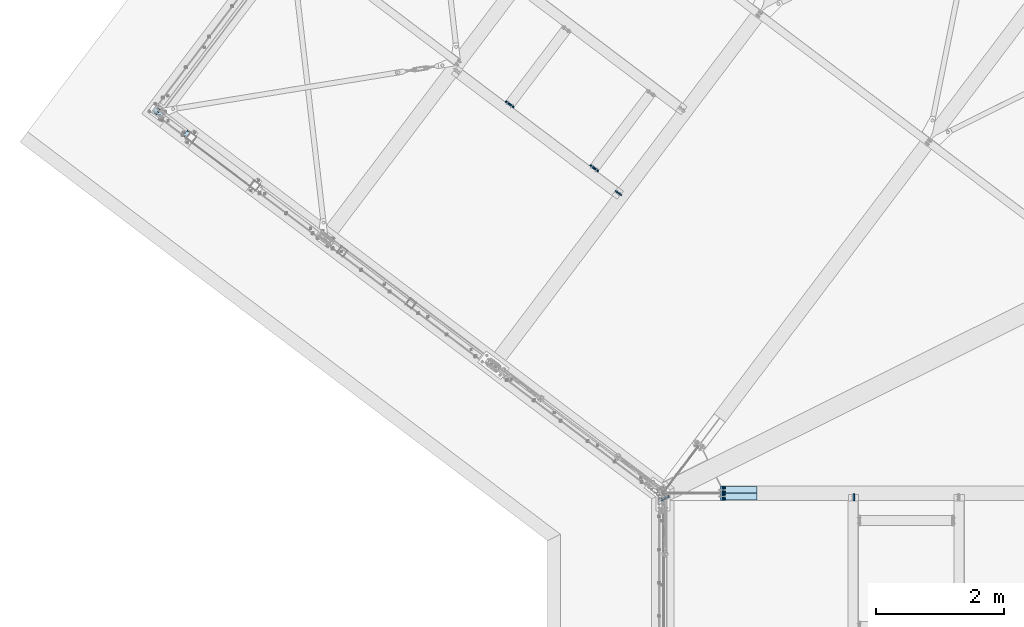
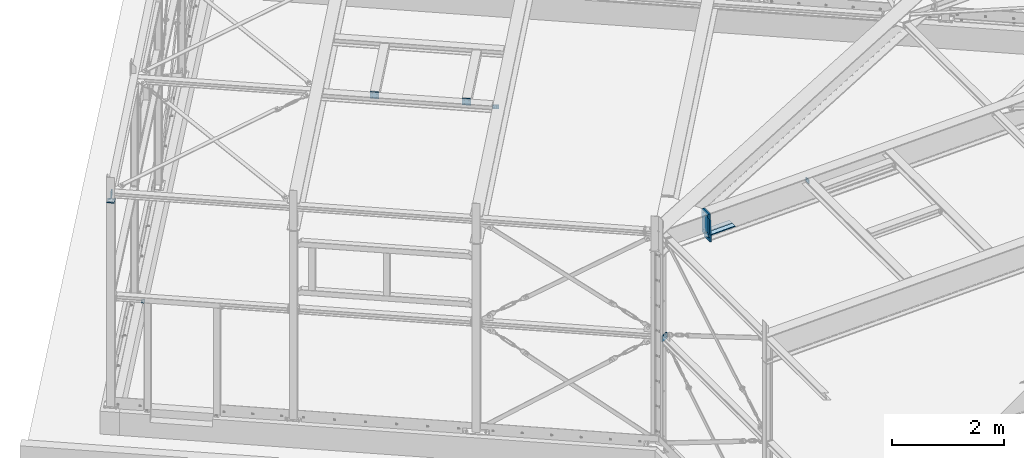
# One storey, part 52 of 476: 15 plates, 66 openings.
"""IFC2X3 building model written with IfcOpenShell, lengths in millimetres."""

from ifc_helpers import new_model, entity, si_unit, converted_unit, frame, frame_2d, origin, origin_with_axes, origin_2d_with_axis, place, context, project, spatial, polyline, circle, outline, extrude, material, layer, layer_set, element, save


model = new_model("IFC2X3")

# Units and contexts
model_context = context("Model", 3, precision=1e-09, world=origin_with_axes())
ifc_project = project(units=[si_unit("LENGTHUNIT", "METRE", prefix="MILLI"), si_unit("AREAUNIT", "SQUARE_METRE"), si_unit("VOLUMEUNIT", "CUBIC_METRE"), converted_unit("PLANEANGLEUNIT", "DEGREE", entity("IfcPlaneAngleMeasure", 0.01745329), si_unit("PLANEANGLEUNIT", "RADIAN"), dimensions=[0, 0, 0, 0, 0, 0, 0])], contexts=[model_context])

# Site, building, storey
site_placement = place(None, origin_with_axes())
site = spatial("IfcSite", under=ifc_project, at=site_placement, Name="mKR Teilneubau & Sanierung BA1 - Ostfildern", CompositionType="ELEMENT")
building_placement = place(site_placement, origin_with_axes())
building = spatial("IfcBuilding", under=site, at=building_placement, Name="Struktur 1", CompositionType="ELEMENT")
storey_placement = place(building_placement, origin_with_axes())
storey = spatial("IfcBuildingStorey", under=building, at=storey_placement, Name="Default Storey", CompositionType="ELEMENT", Elevation=0.0)

# Plate, openings
ifc_material = material(Name="S235JR")
ifc_layer_1 = layer(ifc_material, 30.0)
ifc_layer_set_1 = layer_set([ifc_layer_1], Name="S235JR")
plate_1_placement = place(None, frame((9108.159747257, -5948.67387897, 4981.430828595), z_axis=(-0.999548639, 0.0, -0.030041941), x_axis=(-0.030041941, 0.0, 0.999548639)))
plate_1 = element("IfcPlate", 1, at=plate_1_placement, inside=storey, material=ifc_layer_set_1, Name="Endplate#1", ObjectType="Endplate#1", context=model_context, shape_type="SweptSolid", body=[
    extrude(outline(polyline([(-309.0, -110.0), (309.0, -110.0), (309.0, 110.0), (-309.0, 110.0), (-309.0, -110.0)])), origin_with_axes(), (0.0, 0.0, -1.0), 30.0),
])
opening_1_placement = place(plate_1_placement, frame((266.0, 61.001, 0.5), z_axis=(0.0, 0.0, 1.0), x_axis=(1.0, 0.0, 0.0)))
element("IfcOpeningElement", 2, at=opening_1_placement, cuts=plate_1, ObjectType="Opening", context=model_context, shape_type="SweptSolid", body=[
    extrude(circle(Radius=11.001, at=frame_2d((0.0, -11.001), x_axis=(1.0, 0.0))), origin(), (0.0, 0.0, -1.0), 31.0),
])
opening_2_placement = place(plate_1_placement, frame((-114.0, 61.001, 0.5), z_axis=(0.0, 0.0, 1.0), x_axis=(1.0, 0.0, 0.0)))
element("IfcOpeningElement", 3, at=opening_2_placement, cuts=plate_1, ObjectType="Opening", context=model_context, shape_type="SweptSolid", body=[
    extrude(circle(Radius=11.001, at=frame_2d((0.0, -11.001), x_axis=(1.0, 0.0))), origin(), (0.0, 0.0, -1.0), 31.0),
])
opening_3_placement = place(plate_1_placement, frame((266.0, -38.999, 0.5), z_axis=(0.0, 0.0, 1.0), x_axis=(1.0, 0.0, 0.0)))
element("IfcOpeningElement", 4, at=opening_3_placement, cuts=plate_1, ObjectType="Opening", context=model_context, shape_type="SweptSolid", body=[
    extrude(circle(Radius=11.001, at=frame_2d((0.0, -11.001), x_axis=(1.0, 0.0))), origin(), (0.0, 0.0, -1.0), 31.0),
])
opening_4_placement = place(plate_1_placement, frame((-114.0, -38.999, 0.5), z_axis=(0.0, 0.0, 1.0), x_axis=(1.0, 0.0, 0.0)))
element("IfcOpeningElement", 5, at=opening_4_placement, cuts=plate_1, ObjectType="Opening", context=model_context, shape_type="SweptSolid", body=[
    extrude(circle(Radius=11.001, at=frame_2d((0.0, -11.001), x_axis=(1.0, 0.0))), origin(), (0.0, 0.0, -1.0), 31.0),
])

plate_2_placement = place(None, frame((9076.520981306, -5948.67387897, 5035.504745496), z_axis=(-0.999548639, 0.0, -0.030041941), x_axis=(-0.030041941, 0.0, 0.999548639)))
plate_2 = element("IfcPlate", 6, at=plate_2_placement, inside=storey, material=ifc_layer_set_1, Name="Endplate#2", ObjectType="Endplate#2", context=model_context, shape_type="SweptSolid", body=[
    extrude(outline(polyline([(-254.0, -110.0), (254.0, -110.0), (254.0, 110.0), (-254.0, 110.0), (-254.0, -110.0)])), origin_with_axes(), (0.0, 0.0, -1.0), 30.0),
])
opening_5_placement = place(plate_2_placement, frame((211.0, -38.999, 0.5), z_axis=(0.0, 0.0, 1.0), x_axis=(1.0, 0.0, 0.0)))
element("IfcOpeningElement", 7, at=opening_5_placement, cuts=plate_2, ObjectType="Opening", context=model_context, shape_type="SweptSolid", body=[
    extrude(circle(Radius=11.001, at=frame_2d((0.0, -11.001), x_axis=(1.0, 0.0))), origin(), (0.0, 0.0, -1.0), 31.000000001),
])
opening_6_placement = place(plate_2_placement, frame((-169.0, -38.999, 0.500000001), z_axis=(0.0, 0.0, 1.0), x_axis=(1.0, 0.0, 0.0)))
element("IfcOpeningElement", 8, at=opening_6_placement, cuts=plate_2, ObjectType="Opening", context=model_context, shape_type="SweptSolid", body=[
    extrude(circle(Radius=11.001, at=frame_2d((0.0, -11.001), x_axis=(1.0, 0.0))), origin(), (0.0, 0.0, -1.0), 31.000000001),
])
opening_7_placement = place(plate_2_placement, frame((211.0, 61.001, 0.5), z_axis=(0.0, 0.0, 1.0), x_axis=(1.0, 0.0, 0.0)))
element("IfcOpeningElement", 9, at=opening_7_placement, cuts=plate_2, ObjectType="Opening", context=model_context, shape_type="SweptSolid", body=[
    extrude(circle(Radius=11.001, at=frame_2d((0.0, -11.001), x_axis=(1.0, 0.0))), origin(), (0.0, 0.0, -1.0), 31.000000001),
])
opening_8_placement = place(plate_2_placement, frame((-169.0, 61.001, 0.500000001), z_axis=(0.0, 0.0, 1.0), x_axis=(1.0, 0.0, 0.0)))
element("IfcOpeningElement", 10, at=opening_8_placement, cuts=plate_2, ObjectType="Opening", context=model_context, shape_type="SweptSolid", body=[
    extrude(circle(Radius=11.001, at=frame_2d((0.0, -11.001), x_axis=(1.0, 0.0))), origin(), (0.0, 0.0, -1.0), 31.000000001),
])

# Plates
ifc_layer_2 = layer(ifc_material, 20.0)
ifc_layer_set_2 = layer_set([ifc_layer_2], Name="S235JR")
plate_3_placement = place(None, frame((9393.185559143, -6004.673878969, 4818.419980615), z_axis=(0.030041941, 0.0, -0.999548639), x_axis=(0.0, 1.0, 0.0)))
element("IfcPlate", 11, at=plate_3_placement, inside=storey, material=ifc_layer_set_2, Name="-", ObjectType="-", context=model_context, shape_type="SweptSolid", body=[
    extrude(outline(polyline([(-50.0, -250.0), (50.0, -250.0), (50.0, 250.0), (-50.0, 250.0), (-50.0, -250.0)])), origin_with_axes(), (0.0, 0.0, -1.0), 20.0),
])
plate_4_placement = place(None, frame((9393.185559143, -5892.673878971, 4818.419980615), z_axis=(-0.030041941, 0.0, 0.999548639), x_axis=(0.0, -1.0, 0.0)))
element("IfcPlate", 12, at=plate_4_placement, inside=storey, material=ifc_layer_set_2, Name="-", ObjectType="-", context=model_context, shape_type="SweptSolid", body=[
    extrude(outline(polyline([(-50.0, -250.0), (50.0, -250.0), (50.0, 250.0), (-50.0, 250.0), (-50.0, -250.0)])), origin_with_axes(), (0.0, 0.0, 1.0), 20.0),
])

# Plate, openings
ifc_layer_3 = layer(ifc_material, 15.0)
ifc_layer_set_3 = layer_set([ifc_layer_3], Name="S235JR")
plate_5_placement = place(None, frame((11151.674703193, -5954.67387897, 5329.979239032), z_axis=(0.999549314, 0.0, 0.030019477), x_axis=(0.0, -1.0, 0.0)))
plate_5 = element("IfcPlate", 13, at=plate_5_placement, inside=storey, material=ifc_layer_set_3, Name="LugPlate#2", ObjectType="LugPlate#2", context=model_context, shape_type="SweptSolid", body=[
    extrude(outline(polyline([(0.0, 0.0), (115.0, 0.0), (115.0, 90.0), (0.0, 90.0), (0.0, 0.0)])), origin_with_axes(), (0.0, 0.0, 1.0), 15.0),
])
opening_9_placement = place(plate_5_placement, frame((0.0, 0.0, -0.1), z_axis=(0.0, 0.0, 1.0), x_axis=(-1.0, 0.0, 0.0)))
element("IfcOpeningElement", 14, at=opening_9_placement, cuts=plate_5, ObjectType="Opening", context=model_context, shape_type="SweptSolid", body=[
    extrude(outline(polyline([(0.001, -9.002346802), (0.001, 15.001067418), (-24.002414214, 15.001067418), (0.001, -9.002346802)])), origin(), (0.0, 0.0, 1.0), 15.2),
])
opening_10_placement = place(plate_5_placement, frame((40.0, 25.0, -0.5), z_axis=(0.0, 0.0, 1.0), x_axis=(1.0, 0.0, 0.0)))
element("IfcOpeningElement", 15, at=opening_10_placement, cuts=plate_5, ObjectType="Opening", context=model_context, shape_type="SweptSolid", body=[
    extrude(circle(Radius=7.001, at=frame_2d((50.0, 40.0), x_axis=(1.0, 0.0))), origin(), (0.0, 0.0, 1.0), 16.0),
])
opening_11_placement = place(plate_5_placement, frame((40.0, 25.0, -0.5), z_axis=(0.0, 0.0, 1.0), x_axis=(1.0, 0.0, 0.0)))
element("IfcOpeningElement", 16, at=opening_11_placement, cuts=plate_5, ObjectType="Opening", context=model_context, shape_type="SweptSolid", body=[
    extrude(circle(Radius=7.001, at=frame_2d((0.0, 40.0), x_axis=(1.0, 0.0))), origin(), (0.0, 0.0, 1.0), 16.0),
])
opening_12_placement = place(plate_5_placement, frame((40.0, 25.0, -0.5), z_axis=(0.0, 0.0, 1.0), x_axis=(1.0, 0.0, 0.0)))
element("IfcOpeningElement", 17, at=opening_12_placement, cuts=plate_5, ObjectType="Opening", context=model_context, shape_type="SweptSolid", body=[
    extrude(circle(Radius=7.001, at=frame_2d((50.0, 0.0), x_axis=(1.0, 0.0))), origin(), (0.0, 0.0, 1.0), 16.0),
])
opening_13_placement = place(plate_5_placement, frame((40.0, 25.0, -0.5), z_axis=(0.0, 0.0, 1.0), x_axis=(1.0, 0.0, 0.0)))
element("IfcOpeningElement", 18, at=opening_13_placement, cuts=plate_5, ObjectType="Opening", context=model_context, shape_type="SweptSolid", body=[
    extrude(circle(Radius=7.001, at=origin_2d_with_axis()), origin(), (0.0, 0.0, 1.0), 16.0),
])

plate_6_placement = place(None, frame((5775.564455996, 159.033581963, 5301.392654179), z_axis=(-0.602462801, -0.797581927, -0.030027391), x_axis=(0.018098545, 0.02396011, -0.999549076)))
plate_6 = element("IfcPlate", 19, at=plate_6_placement, inside=storey, material=ifc_layer_set_3, Name="Endplate#1", ObjectType="Endplate#1", context=model_context, shape_type="SweptSolid", body=[
    extrude(outline(polyline([(-70.0, -80.0), (70.0, -80.0), (70.0, 80.0), (-70.0, 80.0), (-70.0, -80.0)])), origin_with_axes(), (0.0, 0.0, 1.0), 15.0),
])
opening_14_placement = place(plate_6_placement, frame((-52.0, -18.0, 15.5), z_axis=(0.0, 0.0, -1.0), x_axis=(1.0, 0.0, 0.0)))
element("IfcOpeningElement", 20, at=opening_14_placement, cuts=plate_6, ObjectType="Opening", context=model_context, shape_type="SweptSolid", body=[
    extrude(circle(Radius=6.001, at=origin_2d_with_axis()), origin(), (0.0, 0.0, 1.0), 16.0),
])
opening_15_placement = place(plate_6_placement, frame((52.0, -18.0, 15.5), z_axis=(0.0, 0.0, -1.0), x_axis=(1.0, 0.0, 0.0)))
element("IfcOpeningElement", 21, at=opening_15_placement, cuts=plate_6, ObjectType="Opening", context=model_context, shape_type="SweptSolid", body=[
    extrude(circle(Radius=6.001, at=origin_2d_with_axis()), origin(), (0.0, 0.0, 1.0), 16.0),
])
opening_16_placement = place(plate_6_placement, frame((52.0, 18.0, 15.5), z_axis=(0.0, 0.0, -1.0), x_axis=(1.0, 0.0, 0.0)))
element("IfcOpeningElement", 22, at=opening_16_placement, cuts=plate_6, ObjectType="Opening", context=model_context, shape_type="SweptSolid", body=[
    extrude(circle(Radius=6.001, at=origin_2d_with_axis()), origin(), (0.0, 0.0, 1.0), 16.0),
])
opening_17_placement = place(plate_6_placement, frame((-52.0, 18.0, 15.5), z_axis=(0.0, 0.0, -1.0), x_axis=(1.0, 0.0, 0.0)))
element("IfcOpeningElement", 23, at=opening_17_placement, cuts=plate_6, ObjectType="Opening", context=model_context, shape_type="SweptSolid", body=[
    extrude(circle(Radius=6.001, at=origin_2d_with_axis()), origin(), (0.0, 0.0, 1.0), 16.0),
])
opening_18_placement = place(plate_6_placement, frame((35.0, -43.0, 15.5), z_axis=(0.0, 0.0, -1.0), x_axis=(0.0, -1.0, 0.0)))
element("IfcOpeningElement", 24, at=opening_18_placement, cuts=plate_6, ObjectType="Opening", context=model_context, shape_type="SweptSolid", body=[
    extrude(circle(Radius=7.001, at=frame_2d((0.0, 70.0), x_axis=(1.0, 0.0))), origin(), (0.0, 0.0, 1.0), 16.0),
])
opening_19_placement = place(plate_6_placement, frame((35.0, -43.0, 15.5), z_axis=(0.0, 0.0, -1.0), x_axis=(0.0, -1.0, 0.0)))
element("IfcOpeningElement", 25, at=opening_19_placement, cuts=plate_6, ObjectType="Opening", context=model_context, shape_type="SweptSolid", body=[
    extrude(circle(Radius=7.001, at=origin_2d_with_axis()), origin(), (0.0, 0.0, 1.0), 16.0),
])
opening_20_placement = place(plate_6_placement, frame((35.0, 43.0, 15.5), z_axis=(0.0, 0.0, -1.0), x_axis=(-1.0, 0.0, 0.0)))
element("IfcOpeningElement", 26, at=opening_20_placement, cuts=plate_6, ObjectType="Opening", context=model_context, shape_type="SweptSolid", body=[
    extrude(circle(Radius=7.001, at=frame_2d((70.0, 0.0), x_axis=(1.0, 0.0))), origin(), (0.0, 0.0, 1.0), 16.0),
])
opening_21_placement = place(plate_6_placement, frame((35.0, 43.0, 15.5), z_axis=(0.0, 0.0, -1.0), x_axis=(-1.0, 0.0, 0.0)))
element("IfcOpeningElement", 27, at=opening_21_placement, cuts=plate_6, ObjectType="Opening", context=model_context, shape_type="SweptSolid", body=[
    extrude(circle(Radius=7.001, at=origin_2d_with_axis()), origin(), (0.0, 0.0, 1.0), 16.0),
])

plate_7_placement = place(None, frame((5757.490571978, 135.106124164, 5300.491832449), z_axis=(0.602462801, 0.797581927, 0.030027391), x_axis=(-0.797941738, 0.602734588, 0.0)))
plate_7 = element("IfcPlate", 28, at=plate_7_placement, inside=storey, material=ifc_layer_set_3, Name="T-plate", ObjectType="T-plate", context=model_context, shape_type="SweptSolid", body=[
    extrude(outline(polyline([(-80.0, -70.0), (80.0, -70.0), (80.0, 70.0), (-80.0, 70.0), (-80.0, -70.0)])), origin_with_axes(), (0.0, 0.0, 1.0), 15.0),
])
opening_22_placement = place(plate_7_placement, frame((-43.0, -35.0, -0.5), z_axis=(0.0, 0.0, 1.0), x_axis=(0.0, 1.0, 0.0)))
element("IfcOpeningElement", 29, at=opening_22_placement, cuts=plate_7, ObjectType="Opening", context=model_context, shape_type="SweptSolid", body=[
    extrude(circle(Radius=7.001, at=frame_2d((70.0, 0.0), x_axis=(1.0, 0.0))), origin(), (0.0, 0.0, 1.0), 16.0),
])
opening_23_placement = place(plate_7_placement, frame((-43.0, -35.0, -0.5), z_axis=(0.0, 0.0, 1.0), x_axis=(0.0, 1.0, 0.0)))
element("IfcOpeningElement", 30, at=opening_23_placement, cuts=plate_7, ObjectType="Opening", context=model_context, shape_type="SweptSolid", body=[
    extrude(circle(Radius=7.001, at=origin_2d_with_axis()), origin(), (0.0, 0.0, 1.0), 16.0),
])
opening_24_placement = place(plate_7_placement, frame((43.0, -35.0, -0.5), z_axis=(0.0, 0.0, 1.0), x_axis=(1.0, 0.0, 0.0)))
element("IfcOpeningElement", 31, at=opening_24_placement, cuts=plate_7, ObjectType="Opening", context=model_context, shape_type="SweptSolid", body=[
    extrude(circle(Radius=7.001, at=frame_2d((0.0, 70.0), x_axis=(1.0, 0.0))), origin(), (0.0, 0.0, 1.0), 16.0),
])
opening_25_placement = place(plate_7_placement, frame((43.0, -35.0, -0.5), z_axis=(0.0, 0.0, 1.0), x_axis=(1.0, 0.0, 0.0)))
element("IfcOpeningElement", 32, at=opening_25_placement, cuts=plate_7, ObjectType="Opening", context=model_context, shape_type="SweptSolid", body=[
    extrude(circle(Radius=7.001, at=origin_2d_with_axis()), origin(), (0.0, 0.0, 1.0), 16.0),
])

plate_8_placement = place(None, frame((7512.376131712, -1285.115594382, 5250.201265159), z_axis=(0.602462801, 0.797581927, 0.030027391), x_axis=(-0.797941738, 0.602734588, 0.0)))
plate_8 = element("IfcPlate", 33, at=plate_8_placement, inside=storey, material=ifc_layer_set_3, Name="LugPlate#1", ObjectType="LugPlate#1", context=model_context, shape_type="SweptSolid", body=[
    extrude(outline(polyline([(0.0, 0.0), (114.999999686, 0.0), (114.999999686, 90.0), (0.0, 90.0), (0.0, 0.0)])), origin_with_axes(), (0.0, 0.0, 1.0), 15.0),
])
opening_26_placement = place(plate_8_placement, frame((0.0, 0.0, 15.1), z_axis=(0.0, 0.0, -1.0), x_axis=(-1.0, 0.0, 0.0)))
element("IfcOpeningElement", 34, at=opening_26_placement, cuts=plate_8, ObjectType="Opening", context=model_context, shape_type="SweptSolid", body=[
    extrude(outline(polyline([(0.001000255, 80.997629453), (0.001000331, 105.001043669), (-24.002413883, 105.001043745), (0.001000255, 80.997629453)])), origin(), (0.0, 0.0, 1.0), 15.2),
])
opening_27_placement = place(plate_8_placement, frame((39.999999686, 65.0, 15.5), z_axis=(0.0, 0.0, -1.0), x_axis=(1.0, 0.0, 0.0)))
element("IfcOpeningElement", 35, at=opening_27_placement, cuts=plate_8, ObjectType="Opening", context=model_context, shape_type="SweptSolid", body=[
    extrude(circle(Radius=7.001, at=frame_2d((50.0, 40.0), x_axis=(1.0, 0.0))), origin(), (0.0, 0.0, 1.0), 16.0),
])
opening_28_placement = place(plate_8_placement, frame((39.999999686, 65.0, 15.5), z_axis=(0.0, 0.0, -1.0), x_axis=(1.0, 0.0, 0.0)))
element("IfcOpeningElement", 36, at=opening_28_placement, cuts=plate_8, ObjectType="Opening", context=model_context, shape_type="SweptSolid", body=[
    extrude(circle(Radius=7.001, at=frame_2d((0.0, 40.0), x_axis=(1.0, 0.0))), origin(), (0.0, 0.0, 1.0), 16.0),
])
opening_29_placement = place(plate_8_placement, frame((39.999999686, 65.0, 15.5), z_axis=(0.0, 0.0, -1.0), x_axis=(1.0, 0.0, 0.0)))
element("IfcOpeningElement", 37, at=opening_29_placement, cuts=plate_8, ObjectType="Opening", context=model_context, shape_type="SweptSolid", body=[
    extrude(circle(Radius=7.001, at=frame_2d((50.0, 0.0), x_axis=(1.0, 0.0))), origin(), (0.0, 0.0, 1.0), 16.0),
])
opening_30_placement = place(plate_8_placement, frame((39.999999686, 65.0, 15.5), z_axis=(0.0, 0.0, -1.0), x_axis=(1.0, 0.0, 0.0)))
element("IfcOpeningElement", 38, at=opening_30_placement, cuts=plate_8, ObjectType="Opening", context=model_context, shape_type="SweptSolid", body=[
    extrude(circle(Radius=7.001, at=origin_2d_with_axis()), origin(), (0.0, 0.0, 1.0), 16.0),
])

plate_9_placement = place(None, frame((7100.147740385, -841.505833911, 5301.392648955), z_axis=(-0.602462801, -0.797581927, -0.030027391), x_axis=(0.018098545, 0.02396011, -0.999549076)))
plate_9 = element("IfcPlate", 39, at=plate_9_placement, inside=storey, material=ifc_layer_set_3, Name="Endplate#1", ObjectType="Endplate#1", context=model_context, shape_type="SweptSolid", body=[
    extrude(outline(polyline([(-70.0, -80.0), (70.0, -80.0), (70.0, 80.0), (-70.0, 80.0), (-70.0, -80.0)])), origin_with_axes(), (0.0, 0.0, 1.0), 15.0),
])
opening_31_placement = place(plate_9_placement, frame((-52.0, -18.0, 15.5), z_axis=(0.0, 0.0, -1.0), x_axis=(1.0, 0.0, 0.0)))
element("IfcOpeningElement", 40, at=opening_31_placement, cuts=plate_9, ObjectType="Opening", context=model_context, shape_type="SweptSolid", body=[
    extrude(circle(Radius=6.001, at=origin_2d_with_axis()), origin(), (0.0, 0.0, 1.0), 16.0),
])
opening_32_placement = place(plate_9_placement, frame((52.0, -18.0, 15.5), z_axis=(0.0, 0.0, -1.0), x_axis=(1.0, 0.0, 0.0)))
element("IfcOpeningElement", 41, at=opening_32_placement, cuts=plate_9, ObjectType="Opening", context=model_context, shape_type="SweptSolid", body=[
    extrude(circle(Radius=6.001, at=origin_2d_with_axis()), origin(), (0.0, 0.0, 1.0), 16.0),
])
opening_33_placement = place(plate_9_placement, frame((52.0, 18.0, 15.5), z_axis=(0.0, 0.0, -1.0), x_axis=(1.0, 0.0, 0.0)))
element("IfcOpeningElement", 42, at=opening_33_placement, cuts=plate_9, ObjectType="Opening", context=model_context, shape_type="SweptSolid", body=[
    extrude(circle(Radius=6.001, at=origin_2d_with_axis()), origin(), (0.0, 0.0, 1.0), 16.0),
])
opening_34_placement = place(plate_9_placement, frame((-52.0, 18.0, 15.5), z_axis=(0.0, 0.0, -1.0), x_axis=(1.0, 0.0, 0.0)))
element("IfcOpeningElement", 43, at=opening_34_placement, cuts=plate_9, ObjectType="Opening", context=model_context, shape_type="SweptSolid", body=[
    extrude(circle(Radius=6.001, at=origin_2d_with_axis()), origin(), (0.0, 0.0, 1.0), 16.0),
])
opening_35_placement = place(plate_9_placement, frame((35.0, -43.0, 15.5), z_axis=(0.0, 0.0, -1.0), x_axis=(0.0, -1.0, 0.0)))
element("IfcOpeningElement", 44, at=opening_35_placement, cuts=plate_9, ObjectType="Opening", context=model_context, shape_type="SweptSolid", body=[
    extrude(circle(Radius=7.001, at=frame_2d((0.0, 70.0), x_axis=(1.0, 0.0))), origin(), (0.0, 0.0, 1.0), 16.0),
])
opening_36_placement = place(plate_9_placement, frame((35.0, -43.0, 15.5), z_axis=(0.0, 0.0, -1.0), x_axis=(0.0, -1.0, 0.0)))
element("IfcOpeningElement", 45, at=opening_36_placement, cuts=plate_9, ObjectType="Opening", context=model_context, shape_type="SweptSolid", body=[
    extrude(circle(Radius=7.001, at=origin_2d_with_axis()), origin(), (0.0, 0.0, 1.0), 16.0),
])
opening_37_placement = place(plate_9_placement, frame((35.0, 43.0, 15.5), z_axis=(0.0, 0.0, -1.0), x_axis=(-1.0, 0.0, 0.0)))
element("IfcOpeningElement", 46, at=opening_37_placement, cuts=plate_9, ObjectType="Opening", context=model_context, shape_type="SweptSolid", body=[
    extrude(circle(Radius=7.001, at=frame_2d((70.0, 0.0), x_axis=(1.0, 0.0))), origin(), (0.0, 0.0, 1.0), 16.0),
])
opening_38_placement = place(plate_9_placement, frame((35.0, 43.0, 15.5), z_axis=(0.0, 0.0, -1.0), x_axis=(-1.0, 0.0, 0.0)))
element("IfcOpeningElement", 47, at=opening_38_placement, cuts=plate_9, ObjectType="Opening", context=model_context, shape_type="SweptSolid", body=[
    extrude(circle(Radius=7.001, at=origin_2d_with_axis()), origin(), (0.0, 0.0, 1.0), 16.0),
])

plate_10_placement = place(None, frame((7082.073856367, -865.43329171, 5300.491827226), z_axis=(0.602462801, 0.797581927, 0.030027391), x_axis=(-0.797941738, 0.602734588, 0.0)))
plate_10 = element("IfcPlate", 48, at=plate_10_placement, inside=storey, material=ifc_layer_set_3, Name="T-plate", ObjectType="T-plate", context=model_context, shape_type="SweptSolid", body=[
    extrude(outline(polyline([(-80.0, -70.0), (80.0, -70.0), (80.0, 70.0), (-80.0, 70.0), (-80.0, -70.0)])), origin_with_axes(), (0.0, 0.0, 1.0), 15.0),
])
opening_39_placement = place(plate_10_placement, frame((43.0, -35.0, -0.5), z_axis=(0.0, 0.0, 1.0), x_axis=(1.0, 0.0, 0.0)))
element("IfcOpeningElement", 49, at=opening_39_placement, cuts=plate_10, ObjectType="Opening", context=model_context, shape_type="SweptSolid", body=[
    extrude(circle(Radius=7.001, at=frame_2d((0.0, 70.0), x_axis=(1.0, 0.0))), origin(), (0.0, 0.0, 1.0), 16.0),
])
opening_40_placement = place(plate_10_placement, frame((43.0, -35.0, -0.5), z_axis=(0.0, 0.0, 1.0), x_axis=(1.0, 0.0, 0.0)))
element("IfcOpeningElement", 50, at=opening_40_placement, cuts=plate_10, ObjectType="Opening", context=model_context, shape_type="SweptSolid", body=[
    extrude(circle(Radius=7.001, at=origin_2d_with_axis()), origin(), (0.0, 0.0, 1.0), 16.0),
])
opening_41_placement = place(plate_10_placement, frame((-43.0, -35.0, -0.5), z_axis=(0.0, 0.0, 1.0), x_axis=(0.0, 1.0, 0.0)))
element("IfcOpeningElement", 51, at=opening_41_placement, cuts=plate_10, ObjectType="Opening", context=model_context, shape_type="SweptSolid", body=[
    extrude(circle(Radius=7.001, at=frame_2d((70.0, 0.0), x_axis=(1.0, 0.0))), origin(), (0.0, 0.0, 1.0), 16.0),
])
opening_42_placement = place(plate_10_placement, frame((-43.0, -35.0, -0.5), z_axis=(0.0, 0.0, 1.0), x_axis=(0.0, 1.0, 0.0)))
element("IfcOpeningElement", 52, at=opening_42_placement, cuts=plate_10, ObjectType="Opening", context=model_context, shape_type="SweptSolid", body=[
    extrude(circle(Radius=7.001, at=origin_2d_with_axis()), origin(), (0.0, 0.0, 1.0), 16.0),
])

plate_11_placement = place(None, frame((155.002755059, 25.153285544, 4982.267498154), z_axis=(-0.018107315, -0.023971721, 0.999548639), x_axis=(0.797941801, -0.602734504, 0.0)))
plate_11 = element("IfcPlate", 53, at=plate_11_placement, inside=storey, material=ifc_layer_set_2, Name="Endplate", ObjectType="Endplate", context=model_context, shape_type="SweptSolid", body=[
    extrude(outline(polyline([(0.0, 0.0), (140.0, 0.0), (140.0, 123.060058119), (0.0, 123.060058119), (0.0, 0.0)])), origin_with_axes(), (0.0, 0.0, 1.0), 20.0),
])
opening_43_placement = place(plate_11_placement, frame((84.75, 15.503838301, 20.5), z_axis=(0.0, 0.0, -1.0), x_axis=(0.0, 1.0, 0.0)))
element("IfcOpeningElement", 54, at=opening_43_placement, cuts=plate_11, ObjectType="Opening", context=model_context, shape_type="SweptSolid", body=[
    extrude(circle(Radius=6.001, at=origin_2d_with_axis()), origin(), (0.0, 0.0, 1.0), 21.0),
])
opening_44_placement = place(plate_11_placement, frame((84.75, 107.556219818, 20.5), z_axis=(0.0, 0.0, -1.0), x_axis=(0.0, 1.0, 0.0)))
element("IfcOpeningElement", 55, at=opening_44_placement, cuts=plate_11, ObjectType="Opening", context=model_context, shape_type="SweptSolid", body=[
    extrude(circle(Radius=6.001, at=origin_2d_with_axis()), origin(), (0.0, 0.0, 1.0), 21.0),
])
opening_45_placement = place(plate_11_placement, frame((55.25, 107.556219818, 20.5), z_axis=(0.0, 0.0, -1.0), x_axis=(0.0, 1.0, 0.0)))
element("IfcOpeningElement", 56, at=opening_45_placement, cuts=plate_11, ObjectType="Opening", context=model_context, shape_type="SweptSolid", body=[
    extrude(circle(Radius=6.001, at=origin_2d_with_axis()), origin(), (0.0, 0.0, 1.0), 21.0),
])
opening_46_placement = place(plate_11_placement, frame((55.25, 15.503838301, 20.5), z_axis=(0.0, 0.0, -1.0), x_axis=(0.0, 1.0, 0.0)))
element("IfcOpeningElement", 57, at=opening_46_placement, cuts=plate_11, ObjectType="Opening", context=model_context, shape_type="SweptSolid", body=[
    extrude(circle(Radius=6.001, at=origin_2d_with_axis()), origin(), (0.0, 0.0, 1.0), 21.0),
])
opening_47_placement = place(plate_11_placement, frame((100.499, 89.03, -0.5), z_axis=(0.0, 0.0, -1.0), x_axis=(-1.0, 0.0, 0.0)))
element("IfcOpeningElement", 58, at=opening_47_placement, cuts=plate_11, ObjectType="Opening", context=model_context, shape_type="SweptSolid", body=[
    extrude(circle(Radius=7.001, at=frame_2d((-7.001, 0.0), x_axis=(1.0, 0.0))), origin(), (0.0, 0.0, -1.0), 21.0),
])
opening_48_placement = place(plate_11_placement, frame((100.499, 34.03, -0.5), z_axis=(0.0, 0.0, -1.0), x_axis=(-1.0, 0.0, 0.0)))
element("IfcOpeningElement", 59, at=opening_48_placement, cuts=plate_11, ObjectType="Opening", context=model_context, shape_type="SweptSolid", body=[
    extrude(circle(Radius=7.001, at=frame_2d((-7.001, 0.0), x_axis=(1.0, 0.0))), origin(), (0.0, 0.0, -1.0), 21.0),
])
opening_49_placement = place(plate_11_placement, frame((25.499, 34.03, -0.5), z_axis=(0.0, 0.0, -1.0), x_axis=(-1.0, 0.0, 0.0)))
element("IfcOpeningElement", 60, at=opening_49_placement, cuts=plate_11, ObjectType="Opening", context=model_context, shape_type="SweptSolid", body=[
    extrude(circle(Radius=7.001, at=frame_2d((-7.001, 0.0), x_axis=(1.0, 0.0))), origin(), (0.0, 0.0, -1.0), 21.0),
])
opening_50_placement = place(plate_11_placement, frame((25.499, 89.03, -0.5), z_axis=(0.0, 0.0, -1.0), x_axis=(-1.0, 0.0, 0.0)))
element("IfcOpeningElement", 61, at=opening_50_placement, cuts=plate_11, ObjectType="Opening", context=model_context, shape_type="SweptSolid", body=[
    extrude(circle(Radius=7.001, at=frame_2d((-7.001, 0.0), x_axis=(1.0, 0.0))), origin(), (0.0, 0.0, -1.0), 21.0),
])

ifc_layer_4 = layer(ifc_material, 12.0)
ifc_layer_set_4 = layer_set([ifc_layer_4], Name="S235JR")
plate_12_placement = place(None, frame((276.549599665, 64.453023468, 5220.545097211), z_axis=(0.797941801, -0.602734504, 0.0), x_axis=(-0.602462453, -0.797581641, -0.030041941)))
plate_12 = element("IfcPlate", 62, at=plate_12_placement, inside=storey, material=ifc_layer_set_4, Name="Endplate", ObjectType="Endplate", context=model_context, shape_type="SweptSolid", body=[
    extrude(outline(polyline([(0.0, 0.0), (90.0, 0.0), (90.0, 124.0), (0.0, 124.0), (0.0, 0.0)])), origin_with_axes(), (0.0, 0.0, 1.0), 12.0),
])
opening_51_placement = place(plate_12_placement, frame((59.5, 99.0, -0.5), z_axis=(0.0, 0.0, 1.0), x_axis=(0.0, -1.0, 0.0)))
element("IfcOpeningElement", 63, at=opening_51_placement, cuts=plate_12, ObjectType="Opening", context=model_context, shape_type="SweptSolid", body=[
    extrude(circle(Radius=6.001, at=origin_2d_with_axis()), origin(), (0.0, 0.0, 1.0), 13.0),
])
opening_52_placement = place(plate_12_placement, frame((59.5, 25.0, -0.5), z_axis=(0.0, 0.0, 1.0), x_axis=(0.0, -1.0, 0.0)))
element("IfcOpeningElement", 64, at=opening_52_placement, cuts=plate_12, ObjectType="Opening", context=model_context, shape_type="SweptSolid", body=[
    extrude(circle(Radius=6.001, at=origin_2d_with_axis()), origin(), (0.0, 0.0, 1.0), 13.0),
])
opening_53_placement = place(plate_12_placement, frame((30.5, 25.0, -0.5), z_axis=(0.0, 0.0, 1.0), x_axis=(0.0, -1.0, 0.0)))
element("IfcOpeningElement", 65, at=opening_53_placement, cuts=plate_12, ObjectType="Opening", context=model_context, shape_type="SweptSolid", body=[
    extrude(circle(Radius=6.001, at=origin_2d_with_axis()), origin(), (0.0, 0.0, 1.0), 13.0),
])
opening_54_placement = place(plate_12_placement, frame((30.5, 99.0, -0.5), z_axis=(0.0, 0.0, 1.0), x_axis=(0.0, -1.0, 0.0)))
element("IfcOpeningElement", 66, at=opening_54_placement, cuts=plate_12, ObjectType="Opening", context=model_context, shape_type="SweptSolid", body=[
    extrude(circle(Radius=6.001, at=origin_2d_with_axis()), origin(), (0.0, 0.0, 1.0), 13.0),
])
opening_55_placement = place(plate_12_placement, frame((70.0, 62.0, -0.5), z_axis=(0.0, 0.0, 1.0), x_axis=(0.0, -1.0, 0.0)))
element("IfcOpeningElement", 67, at=opening_55_placement, cuts=plate_12, ObjectType="Opening", context=model_context, shape_type="SweptSolid", body=[
    extrude(circle(Radius=7.001, at=origin_2d_with_axis()), origin(), (0.0, 0.0, 1.0), 13.0),
])
opening_56_placement = place(plate_12_placement, frame((20.0, 62.0, -0.5), z_axis=(0.0, 0.0, 1.0), x_axis=(0.0, -1.0, 0.0)))
element("IfcOpeningElement", 68, at=opening_56_placement, cuts=plate_12, ObjectType="Opening", context=model_context, shape_type="SweptSolid", body=[
    extrude(circle(Radius=7.001, at=origin_2d_with_axis()), origin(), (0.0, 0.0, 1.0), 13.0),
])

plate_13_placement = place(None, frame((8191.831043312, -6047.329608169, 2912.000013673), z_axis=(-0.445738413, 0.895163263, 0.0), x_axis=(0.0, 0.0, -1.0)))
plate_13 = element("IfcPlate", 69, at=plate_13_placement, inside=storey, material=ifc_layer_set_3, Name="Endplate#1", ObjectType="Endplate#1", context=model_context, shape_type="SweptSolid", body=[
    extrude(outline(polyline([(-62.00000347, -82.501061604), (62.00000347, -82.501061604), (62.00000347, 82.501061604), (-62.00000347, 82.501061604), (-62.00000347, -82.501061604)])), origin_with_axes(), (0.0, 0.0, 1.0), 15.0),
])
opening_57_placement = place(plate_13_placement, frame((36.999996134, 44.086060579, 15.5), z_axis=(0.0, 0.0, -1.0), x_axis=(-1.0, 0.0, 0.0)))
element("IfcOpeningElement", 70, at=opening_57_placement, cuts=plate_13, ObjectType="Opening", context=model_context, shape_type="SweptSolid", body=[
    extrude(circle(Radius=6.001, at=origin_2d_with_axis()), origin(), (0.0, 0.0, 1.0), 16.0),
])
opening_58_placement = place(plate_13_placement, frame((-37.000003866, 44.086060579, 15.5), z_axis=(0.0, 0.0, -1.0), x_axis=(-1.0, 0.0, 0.0)))
element("IfcOpeningElement", 71, at=opening_58_placement, cuts=plate_13, ObjectType="Opening", context=model_context, shape_type="SweptSolid", body=[
    extrude(circle(Radius=6.001, at=origin_2d_with_axis()), origin(), (0.0, 0.0, 1.0), 16.0),
])
opening_59_placement = place(plate_13_placement, frame((-37.000003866, 14.500487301, 15.5), z_axis=(0.0, 0.0, -1.0), x_axis=(-1.0, 0.0, 0.0)))
element("IfcOpeningElement", 72, at=opening_59_placement, cuts=plate_13, ObjectType="Opening", context=model_context, shape_type="SweptSolid", body=[
    extrude(circle(Radius=6.001, at=origin_2d_with_axis()), origin(), (0.0, 0.0, 1.0), 16.0),
])
opening_60_placement = place(plate_13_placement, frame((36.999996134, 14.500487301, 15.5), z_axis=(0.0, 0.0, -1.0), x_axis=(-1.0, 0.0, 0.0)))
element("IfcOpeningElement", 73, at=opening_60_placement, cuts=plate_13, ObjectType="Opening", context=model_context, shape_type="SweptSolid", body=[
    extrude(circle(Radius=6.001, at=origin_2d_with_axis()), origin(), (0.0, 0.0, 1.0), 16.0),
])
opening_61_placement = place(plate_13_placement, frame((2.737e-06, 4.26009761, 15.5), z_axis=(0.0, 0.0, -1.0), x_axis=(-1.0, 0.0, 0.0)))
element("IfcOpeningElement", 74, at=opening_61_placement, cuts=plate_13, ObjectType="Opening", context=model_context, shape_type="SweptSolid", body=[
    extrude(circle(Radius=7.001, at=origin_2d_with_axis()), origin(), (0.0, 0.0, 1.0), 16.0),
])
opening_62_placement = place(plate_13_placement, frame((2.737e-06, -45.73990239, 15.5), z_axis=(0.0, 0.0, -1.0), x_axis=(0.0, -1.0, 0.0)))
element("IfcOpeningElement", 75, at=opening_62_placement, cuts=plate_13, ObjectType="Opening", context=model_context, shape_type="SweptSolid", body=[
    extrude(circle(Radius=7.001, at=origin_2d_with_axis()), origin(), (0.0, 0.0, 1.0), 16.0),
])

plate_14_placement = place(None, frame((8182.934693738, -6018.24602494, 2912.000019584), z_axis=(0.445738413, -0.895163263, 0.0), x_axis=(-0.895163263, -0.445738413, 1.32e-07)))
plate_14 = element("IfcPlate", 76, at=plate_14_placement, inside=storey, material=ifc_layer_set_3, Name="T-plate", ObjectType="T-plate", context=model_context, shape_type="SweptSolid", body=[
    extrude(outline(polyline([(-77.501091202, -62.0), (77.501091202, -62.0), (77.501091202, 62.0), (-77.501091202, 62.0), (-77.501091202, -62.0)])), origin_with_axes(), (0.0, 0.0, 1.0), 15.0),
])
opening_63_placement = place(plate_14_placement, frame((9.260082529, 9.871e-06, -0.5), z_axis=(0.0, 0.0, 1.0), x_axis=(1.32e-07, -1.0, 0.0)))
element("IfcOpeningElement", 77, at=opening_63_placement, cuts=plate_14, ObjectType="Opening", context=model_context, shape_type="SweptSolid", body=[
    extrude(circle(Radius=7.001, at=origin_2d_with_axis()), origin(), (0.0, 0.0, 1.0), 16.0),
])
opening_64_placement = place(plate_14_placement, frame((-40.739917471, 3.272e-06, -0.5), z_axis=(0.0, 0.0, 1.0), x_axis=(-1.0, -1.32e-07, 0.0)))
element("IfcOpeningElement", 78, at=opening_64_placement, cuts=plate_14, ObjectType="Opening", context=model_context, shape_type="SweptSolid", body=[
    extrude(circle(Radius=7.001, at=origin_2d_with_axis()), origin(), (0.0, 0.0, 1.0), 16.0),
])

ifc_layer_5 = layer(ifc_material, 10.0)
ifc_layer_set_5 = layer_set([ifc_layer_5], Name="S235JR")
plate_15_placement = place(None, frame((697.879547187, -245.802394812, 2855.0), z_axis=(0.0, 0.0, -1.0), x_axis=(0.797941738, -0.602734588, 0.0)))
plate_15 = element("IfcPlate", 79, at=plate_15_placement, inside=storey, material=ifc_layer_set_5, Name="Endplate", ObjectType="Endplate", context=model_context, shape_type="SweptSolid", body=[
    extrude(outline(polyline([(20.0, 2.5), (80.0, 2.5), (80.0, 109.5), (20.0, 109.5), (20.0, 2.5)])), origin_with_axes(), (0.0, 0.0, 1.0), 10.0),
])
opening_65_placement = place(plate_15_placement, frame((45.0, 56.0, 10.5), z_axis=(0.0, 0.0, -1.0), x_axis=(1.0, 0.0, 0.0)))
element("IfcOpeningElement", 80, at=opening_65_placement, cuts=plate_15, ObjectType="Opening", context=model_context, shape_type="SweptSolid", body=[
    extrude(circle(Radius=6.501, at=frame_2d((0.0, 35.0), x_axis=(1.0, 0.0))), origin(), (0.0, 0.0, 1.0), 11.0),
])
opening_66_placement = place(plate_15_placement, frame((45.0, 56.0, 10.5), z_axis=(0.0, 0.0, -1.0), x_axis=(1.0, 0.0, 0.0)))
element("IfcOpeningElement", 81, at=opening_66_placement, cuts=plate_15, ObjectType="Opening", context=model_context, shape_type="SweptSolid", body=[
    extrude(circle(Radius=6.501, at=frame_2d((0.0, -35.0), x_axis=(1.0, 0.0))), origin(), (0.0, 0.0, 1.0), 11.0),
])

save(model, "model.ifc")
